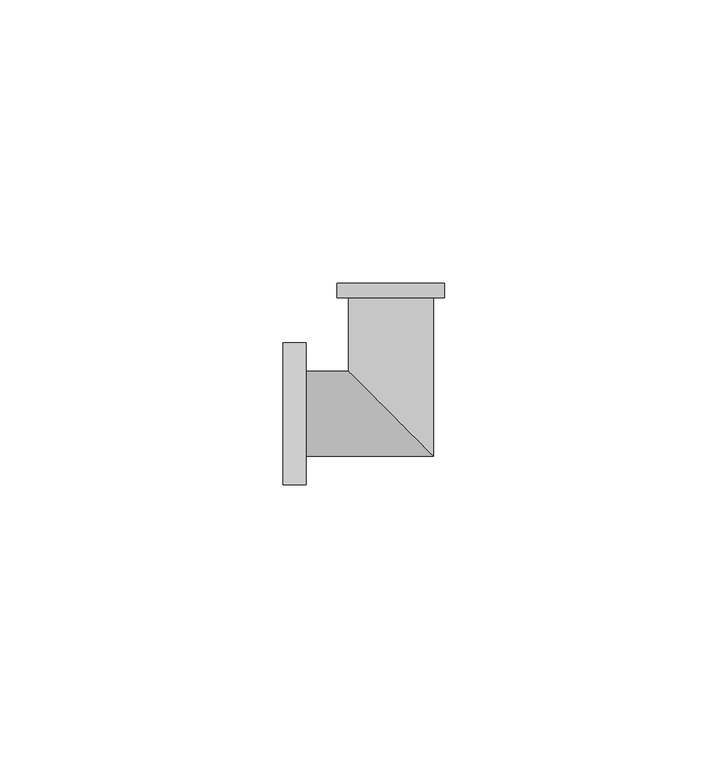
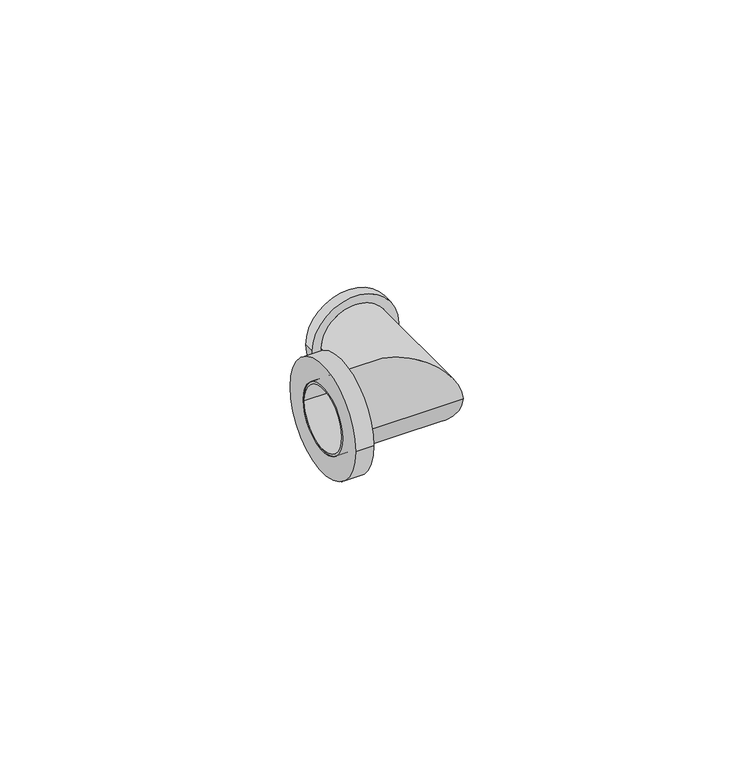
"""IFC4 building model written with IfcOpenShell, lengths in millimetres: pipe fitting geometry, БИР ПЕКС_НПР_Угольник_Резьба_Внутренняя : Угольник с внутренней резьбой."""

from ifc_helpers import new_model, si_unit, point, frame, origin, origin_2d, place, context, project, spatial, polyline, circle_curve, ellipse_curve, trimmed, segment, composite_curve, outline, extrude, source, transform, mapped, element, save
from ifc_brep_helpers import plane_surface, cylinder_surface, revolved_surface, advanced_brep


def pipe_fitting_84537ec8(model_context):
    return source(origin(), model_context, "Body", "SolidModel", [
        extrude(outline(composite_curve([segment(trimmed(circle_curve(origin_2d(), 12.5), [point((-12.5, 0.0))], [point((12.5, 0.0))], False, "CARTESIAN"), True, "CONTINUOUS"), segment(trimmed(circle_curve(origin_2d(), 12.5), [point((12.5, 0.0))], [point((-12.5, 0.0))], False, "CARTESIAN"), True, "CONTINUOUS")], self_intersect=False), holes=[composite_curve([segment(trimmed(circle_curve(origin_2d(), 7.5), [point((-7.5, 0.0))], [point((7.5, 0.0))], True, "CARTESIAN"), True, "CONTINUOUS"), segment(trimmed(circle_curve(origin_2d(), 7.5), [point((7.5, 0.0))], [point((-7.5, 0.0))], True, "CARTESIAN"), True, "CONTINUOUS")], self_intersect=False)]), frame((-19.0, 0.0, 0.0), z_axis=(1.0, 0.0, 0.0), x_axis=(0.0, 1.0, 0.0)), (0.0, 0.0, 1.0), 4.0),
        advanced_brep(
        [(-19.0, -7.5, 0.0), (-19.0, 7.5, 0.0), (-19.0, -7.0, 0.0), (-19.0, 7.0, 0.0), (7.5, -7.5, 0.0), (-7.5, 7.5, 0.0), (-9.5, 23.0, 0.0), (9.5, 23.0, 0.0), (7.0, 23.0, 0.0), (-7.0, 23.0, 0.0), (7.5, 20.5, 0.0), (-7.5, 20.5, 0.0), (-9.5, 20.5, 0.0), (9.5, 20.5, 0.0), (7.0, -7.0, 0.0), (-7.0, 7.0, 0.0)],
        [
            (0, 1, circle_curve(frame((-19.0, 0.0, 0.0), z_axis=(-1.0, 0.0, 0.0), x_axis=(0.0, 1.0, 0.0)), 7.5)),
            (1, 0, circle_curve(frame((-19.0, 0.0, 0.0), z_axis=(-1.0, 0.0, 0.0), x_axis=(0.0, 1.0, 0.0)), 7.5)),
            (2, 3, circle_curve(frame((-19.0, 0.0, 0.0), z_axis=(1.0, 0.0, 0.0), x_axis=(0.0, 1.0, 0.0)), 7.0)),
            (3, 2, circle_curve(frame((-19.0, 0.0, 0.0), z_axis=(1.0, 0.0, 0.0), x_axis=(0.0, 1.0, 0.0)), 7.0)),
            (0, 4),
            (4, 5, ellipse_curve(frame((0.0, 0.0, 0.0), z_axis=(-0.7071067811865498, -0.7071067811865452, 0.0), x_axis=(-0.7071067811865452, 0.7071067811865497, 0.0)), 10.6066017, 7.5)),
            (5, 1),
            (5, 4, ellipse_curve(frame((0.0, 0.0, 0.0), z_axis=(-0.7071067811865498, -0.7071067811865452, 0.0), x_axis=(-0.7071067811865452, 0.7071067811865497, 0.0)), 10.6066017, 7.5)),
            (6, 7, circle_curve(frame((0.0, 23.0, 0.0), z_axis=(0.0, 1.0, 0.0), x_axis=(1.0, 0.0, 0.0)), 9.5)),
            (7, 6, circle_curve(frame((0.0, 23.0, 0.0), z_axis=(0.0, 1.0, 0.0), x_axis=(1.0, 0.0, 0.0)), 9.5)),
            (8, 9, circle_curve(frame((0.0, 23.0, 0.0), z_axis=(0.0, -1.0, 0.0), x_axis=(-1.0, 0.0, 0.0)), 7.0)),
            (9, 8, circle_curve(frame((0.0, 23.0, 0.0), z_axis=(0.0, -1.0, 0.0), x_axis=(-1.0, 0.0, 0.0)), 7.0)),
            (4, 10),
            (10, 11, circle_curve(frame((0.0, 20.5, 0.0), z_axis=(0.0, -1.0, 0.0), x_axis=(-1.0, 0.0, 0.0)), 7.5)),
            (11, 5),
            (11, 10, circle_curve(frame((0.0, 20.5, 0.0), z_axis=(0.0, -1.0, 0.0), x_axis=(-1.0, 0.0, 0.0)), 7.5)),
            (12, 13, circle_curve(frame((0.0, 20.5, 0.0), z_axis=(0.0, -1.0, 0.0), x_axis=(1.0, 0.0, 0.0)), 9.5)),
            (13, 12, circle_curve(frame((0.0, 20.5, 0.0), z_axis=(0.0, -1.0, 0.0), x_axis=(1.0, 0.0, 0.0)), 9.5)),
            (12, 6),
            (7, 13),
            (2, 14),
            (14, 15, ellipse_curve(frame((0.0, 0.0, 0.0), z_axis=(0.7071067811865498, 0.7071067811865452, 0.0), x_axis=(0.7071067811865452, -0.7071067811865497, 0.0)), 9.8994949, 7.0)),
            (15, 3),
            (15, 14, ellipse_curve(frame((0.0, 0.0, 0.0), z_axis=(0.7071067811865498, 0.7071067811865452, 0.0), x_axis=(0.7071067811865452, -0.7071067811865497, 0.0)), 9.8994949, 7.0)),
            (9, 15),
            (14, 8),
        ],
        [
            plane_surface(frame((-19.0, 0.0, 0.0), z_axis=(-1.0, 0.0, 0.0), x_axis=(0.0, 0.0, 1.0))),
            cylinder_surface(frame((-19.0, 0.0, 0.0), z_axis=(-1.0, 0.0, 0.0), x_axis=(0.0, 1.0, 0.0)), 7.5),
            plane_surface(frame((0.0, 23.0, 0.0), z_axis=(0.0, 1.0, 0.0), x_axis=(0.0, 0.0, 1.0))),
            cylinder_surface(frame((0.0, 0.0, 0.0), z_axis=(0.0, -1.0, 0.0), x_axis=(-1.0, 0.0, 0.0)), 7.5),
            plane_surface(frame((9.5, 20.5, 0.0), z_axis=(0.0, -1.0, 0.0), x_axis=(0.0, 0.0, 1.0))),
            cylinder_surface(frame((0.0, 23.0, 0.0), z_axis=(0.0, -1.0, 0.0), x_axis=(1.0, 0.0, 0.0)), 9.5),
            revolved_surface(polyline([(7.0, 7.0, 0.0), (-19.0, 7.0, 0.0)]), (-19.0, 0.0, 0.0), (1.0, 0.0, 0.0)),
            revolved_surface(polyline([(-7.0, 23.0, 0.0), (-7.0, -7.0, 0.0)]), (0.0, 0.0, 0.0), (0.0, 1.0, 0.0)),
        ],
        [
            (0, [[1, 2], [3, 4]]),
            (1, [[-1, 5, 6, 7]]),
            (1, [[-2, -7, 8, -5]]),
            (2, [[9, 10], [11, 12]]),
            (3, [[-6, 13, 14, 15]]),
            (3, [[-8, -15, 16, -13]]),
            (4, [[17, 18], [-14, -16]]),
            (5, [[-17, 19, -10, 20]]),
            (5, [[-18, -20, -9, -19]]),
            (6, [[-3, 21, 22, 23]]),
            (6, [[-4, -23, 24, -21]]),
            (7, [[-12, 25, -22, 26]]),
            (7, [[-11, -26, -24, -25]]),
        ],
    ),
    ])


if __name__ == "__main__":
    model = new_model("IFC4")
    model_context = context("Model", 3, world=origin())
    ifc_project = project(units=[si_unit("LENGTHUNIT", "METRE", prefix="MILLI")], contexts=[model_context])
    site = spatial("IfcSite", under=ifc_project)
    building = spatial("IfcBuilding", under=site)
    placement = place(None, origin())
    pipe_fitting_shape = pipe_fitting_84537ec8(model_context)
    element("IfcPipeFitting", 1, ObjectType="БИР ПЕКС_НПР_Угольник_Резьба_Внутренняя : Угольник с внутренней резьбой", at=placement, inside=building, context=model_context, shape_type="MappedRepresentation", body=[
        mapped(pipe_fitting_shape, transform((0.0, 0.0, 0.0), x_axis=(1.0, 0.0, 0.0), y_axis=(0.0, 1.0, 0.0), z_axis=(0.0, 0.0, 1.0))),
    ])
    save(model, "model.ifc")
